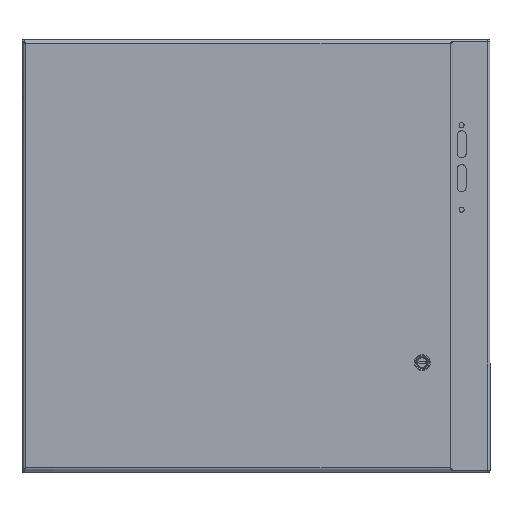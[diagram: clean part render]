
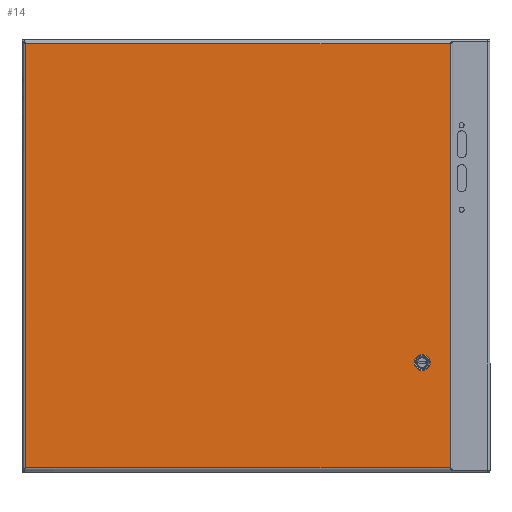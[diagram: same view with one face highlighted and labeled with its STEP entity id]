
A CAD part, top view. The second image highlights one B-rep face of the part: STEP entity #14.
In plain terms, the highlighted planar face has unit normal (0, 0, 1).
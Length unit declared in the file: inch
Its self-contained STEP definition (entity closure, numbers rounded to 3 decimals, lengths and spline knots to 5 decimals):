
#1 = ORIENTED_EDGE ( 'NONE', *, *, #2, .T. ) ;
#2 = EDGE_CURVE ( 'NONE', #31377, #23, #8192, .T. ) ;
#14 = ADVANCED_FACE ( 'NONE', ( #8167, #8166 ), #8165, .T. ) ;
#15 = EDGE_LOOP ( 'NONE', ( #16, #18 ) ) ;
#16 = ORIENTED_EDGE ( 'NONE', *, *, #17, .F. ) ;
#17 = EDGE_CURVE ( 'NONE', #30013, #31351, #8225, .T. ) ;
#18 = ORIENTED_EDGE ( 'NONE', *, *, #31353, .F. ) ;
#19 = EDGE_LOOP ( 'NONE', ( #20, #31370, #31375, #1 ) ) ;
#20 = ORIENTED_EDGE ( 'NONE', *, *, #22, .T. ) ;
#22 = EDGE_CURVE ( 'NONE', #23, #71, #8220, .T. ) ;
#23 = VERTEX_POINT ( 'NONE', #8216 ) ;
#71 = VERTEX_POINT ( 'NONE', #8502 ) ;
#8161 = DIRECTION ( 'NONE',  ( 0., 0., 1. ) ) ;
#8162 = CARTESIAN_POINT ( 'NONE',  ( -11.9185, -11.912, 0.072 ) ) ;
#8163 = AXIS2_PLACEMENT_3D ( 'NONE', #8162, #8161, #8226 ) ;
#8165 = PLANE ( 'NONE',  #8163 ) ;
#8166 = FACE_OUTER_BOUND ( 'NONE', #19, .T. ) ;
#8167 = FACE_BOUND ( 'NONE', #15, .T. ) ;
#8189 = DIRECTION ( 'NONE',  ( 1., 0., 0. ) ) ;
#8190 = VECTOR ( 'NONE', #8189, 39.37008 ) ;
#8191 = CARTESIAN_POINT ( 'NONE',  ( -11.9185, -11.76, 0.072 ) ) ;
#8192 = LINE ( 'NONE', #8191, #8190 ) ;
#8216 = CARTESIAN_POINT ( 'NONE',  ( 11.7665, -11.76, 0.072 ) ) ;
#8217 = DIRECTION ( 'NONE',  ( 0., 1., 0. ) ) ;
#8218 = VECTOR ( 'NONE', #8217, 39.37008 ) ;
#8219 = CARTESIAN_POINT ( 'NONE',  ( 11.7665, -11.912, 0.072 ) ) ;
#8220 = LINE ( 'NONE', #8219, #8218 ) ;
#8221 = DIRECTION ( 'NONE',  ( 1., 0., 0. ) ) ;
#8222 = DIRECTION ( 'NONE',  ( 0., 0., 1. ) ) ;
#8223 = CARTESIAN_POINT ( 'NONE',  ( 10.2185, -5.928, 0.072 ) ) ;
#8224 = AXIS2_PLACEMENT_3D ( 'NONE', #8223, #8222, #8221 ) ;
#8225 = CIRCLE ( 'NONE', #8224, 0.446 ) ;
#8226 = DIRECTION ( 'NONE',  ( 1., 0., 0. ) ) ;
#8502 = CARTESIAN_POINT ( 'NONE',  ( 11.7665, 11.76, 0.072 ) ) ;
#25085 = CARTESIAN_POINT ( 'NONE',  ( 10.6645, -5.928, 0.072 ) ) ;
#27293 = DIRECTION ( 'NONE',  ( 1., 0., 0. ) ) ;
#27294 = DIRECTION ( 'NONE',  ( 0., 0., 1. ) ) ;
#27295 = CARTESIAN_POINT ( 'NONE',  ( 10.2185, -5.928, 0.072 ) ) ;
#27296 = AXIS2_PLACEMENT_3D ( 'NONE', #27295, #27294, #27293 ) ;
#27297 = CIRCLE ( 'NONE', #27296, 0.446 ) ;
#27299 = CARTESIAN_POINT ( 'NONE',  ( 9.7725, -5.928, 0.072 ) ) ;
#27315 = CARTESIAN_POINT ( 'NONE',  ( -11.7665, -11.76, 0.072 ) ) ;
#27316 = DIRECTION ( 'NONE',  ( 0., -1., 0. ) ) ;
#27317 = VECTOR ( 'NONE', #27316, 39.37008 ) ;
#27318 = CARTESIAN_POINT ( 'NONE',  ( -11.7665, 11.912, 0.072 ) ) ;
#27319 = LINE ( 'NONE', #27318, #27317 ) ;
#27320 = CARTESIAN_POINT ( 'NONE',  ( -11.7665, 11.76, 0.072 ) ) ;
#27321 = DIRECTION ( 'NONE',  ( -1., 0., 0. ) ) ;
#27322 = VECTOR ( 'NONE', #27321, 39.37008 ) ;
#27323 = CARTESIAN_POINT ( 'NONE',  ( 131.1035, 11.76, 0.072 ) ) ;
#27329 = LINE ( 'NONE', #27323, #27322 ) ;
#30013 = VERTEX_POINT ( 'NONE', #25085 ) ;
#31351 = VERTEX_POINT ( 'NONE', #27299 ) ;
#31353 = EDGE_CURVE ( 'NONE', #31351, #30013, #27297, .T. ) ;
#31370 = ORIENTED_EDGE ( 'NONE', *, *, #31372, .T. ) ;
#31372 = EDGE_CURVE ( 'NONE', #71, #31373, #27329, .T. ) ;
#31373 = VERTEX_POINT ( 'NONE', #27320 ) ;
#31375 = ORIENTED_EDGE ( 'NONE', *, *, #31376, .T. ) ;
#31376 = EDGE_CURVE ( 'NONE', #31373, #31377, #27319, .T. ) ;
#31377 = VERTEX_POINT ( 'NONE', #27315 ) ;
